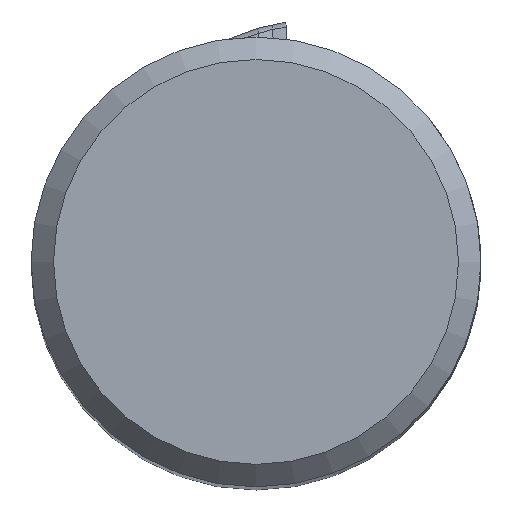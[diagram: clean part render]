
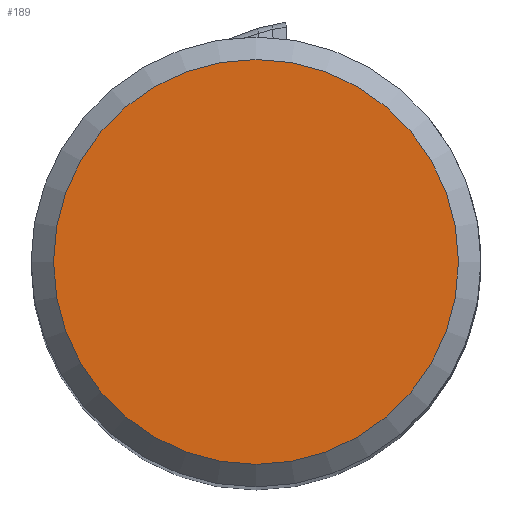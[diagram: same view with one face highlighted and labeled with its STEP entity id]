
A CAD part, top view. The second image highlights one B-rep face of the part: STEP entity #189.
In plain terms, the highlighted planar face has unit normal (0, 0, 1).
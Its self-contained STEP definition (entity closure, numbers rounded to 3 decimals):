
#163=CIRCLE('',#980,9.);
#189=ADVANCED_FACE('',(#272),#239,.T.);
#239=PLANE('',#981);
#272=FACE_OUTER_BOUND('',#326,.T.);
#326=EDGE_LOOP('',(#559));
#559=ORIENTED_EDGE('',*,*,#856,.T.);
#773=VERTEX_POINT('',#1396);
#856=EDGE_CURVE('',#773,#773,#163,.T.);
#980=AXIS2_PLACEMENT_3D('',#1395,#1107,#1108);
#981=AXIS2_PLACEMENT_3D('',#1397,#1109,#1110);
#1107=DIRECTION('',(0.,0.,1.));
#1108=DIRECTION('',(1.,0.,0.));
#1109=DIRECTION('',(0.,0.,1.));
#1110=DIRECTION('',(-1.,0.,0.));
#1395=CARTESIAN_POINT('',(0.,0.,120.));
#1396=CARTESIAN_POINT('',(9.,0.,120.));
#1397=CARTESIAN_POINT('',(0.,0.,120.));
